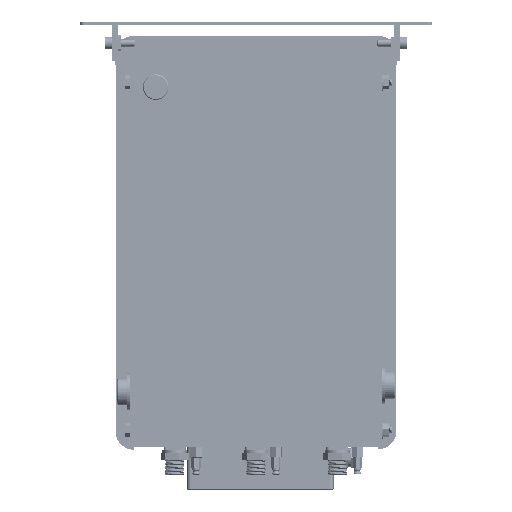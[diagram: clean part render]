
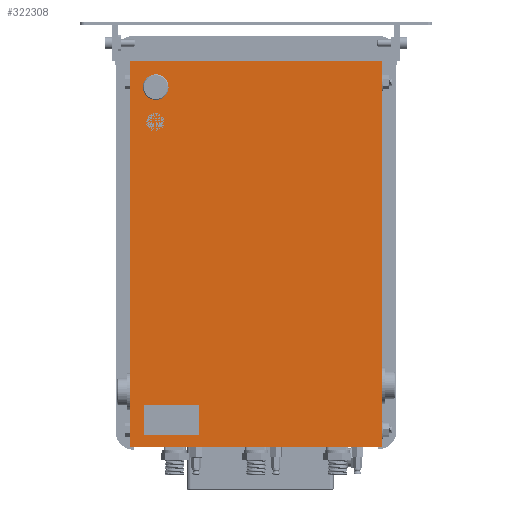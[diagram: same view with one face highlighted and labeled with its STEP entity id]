
A CAD part, left-side view. The second image highlights one B-rep face of the part: STEP entity #322308.
In plain terms, the highlighted planar face has unit normal (-1, 0, 0).
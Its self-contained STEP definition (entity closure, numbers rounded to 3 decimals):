
#58861 = CARTESIAN_POINT ( 'NONE',  ( -492.998, -104.306, 273.133 ) ) ;
#68283 = CARTESIAN_POINT ( 'NONE',  ( -492.998, 259.694, 273.133 ) ) ;
#91848 = LINE ( 'NONE', #192734, #297272 ) ;
#94005 = ORIENTED_EDGE ( 'NONE', *, *, #275511, .T. ) ;
#94673 = VERTEX_POINT ( 'NONE', #193378 ) ;
#106688 = VECTOR ( 'NONE', #120023, 1000. ) ;
#115597 = DIRECTION ( 'NONE',  ( 0., 1., 0. ) ) ;
#120023 = DIRECTION ( 'NONE',  ( 0., 0., 1. ) ) ;
#171516 = EDGE_CURVE ( 'NONE', #94673, #435864, #91848, .T. ) ;
#192734 = CARTESIAN_POINT ( 'NONE',  ( -492.998, -104.306, -68.867 ) ) ;
#193378 = CARTESIAN_POINT ( 'NONE',  ( -492.998, -104.306, -148.867 ) ) ;
#212911 = ORIENTED_EDGE ( 'NONE', *, *, #171516, .T. ) ;
#228298 = FACE_OUTER_BOUND ( 'NONE', #539517, .T. ) ;
#228561 = DIRECTION ( 'NONE',  ( 0., -1., 0. ) ) ;
#240753 = DIRECTION ( 'NONE',  ( 0., -1., 0. ) ) ;
#256425 = CARTESIAN_POINT ( 'NONE',  ( -492.998, 170.694, -148.867 ) ) ;
#275511 = EDGE_CURVE ( 'NONE', #435864, #455427, #408930, .T. ) ;
#297272 = VECTOR ( 'NONE', #450345, 1000. ) ;
#322308 = ADVANCED_FACE ( 'NONE', ( #228298 ), #335403, .F. ) ;
#334247 = ORIENTED_EDGE ( 'NONE', *, *, #610430, .F. ) ;
#335403 = PLANE ( 'NONE',  #449207 ) ;
#351035 = VERTEX_POINT ( 'NONE', #256425 ) ;
#390862 = ORIENTED_EDGE ( 'NONE', *, *, #515360, .T. ) ;
#408930 = LINE ( 'NONE', #68283, #489901 ) ;
#410241 = LINE ( 'NONE', #593392, #106688 ) ;
#420735 = CARTESIAN_POINT ( 'NONE',  ( -492.998, -76.306, -68.867 ) ) ;
#435864 = VERTEX_POINT ( 'NONE', #58861 ) ;
#445852 = CARTESIAN_POINT ( 'NONE',  ( -492.998, 170.694, 273.133 ) ) ;
#449207 = AXIS2_PLACEMENT_3D ( 'NONE', #420735, #572097, #240753 ) ;
#450345 = DIRECTION ( 'NONE',  ( 0., 0., 1. ) ) ;
#455427 = VERTEX_POINT ( 'NONE', #445852 ) ;
#465251 = CARTESIAN_POINT ( 'NONE',  ( -492.998, -104.306, -148.867 ) ) ;
#489901 = VECTOR ( 'NONE', #115597, 1000. ) ;
#512663 = LINE ( 'NONE', #465251, #556908 ) ;
#515360 = EDGE_CURVE ( 'NONE', #351035, #94673, #512663, .T. ) ;
#539517 = EDGE_LOOP ( 'NONE', ( #334247, #390862, #212911, #94005 ) ) ;
#556908 = VECTOR ( 'NONE', #228561, 1000. ) ;
#572097 = DIRECTION ( 'NONE',  ( 1., 0., 0. ) ) ;
#593392 = CARTESIAN_POINT ( 'NONE',  ( -492.998, 170.694, -111.867 ) ) ;
#610430 = EDGE_CURVE ( 'NONE', #351035, #455427, #410241, .T. ) ;
